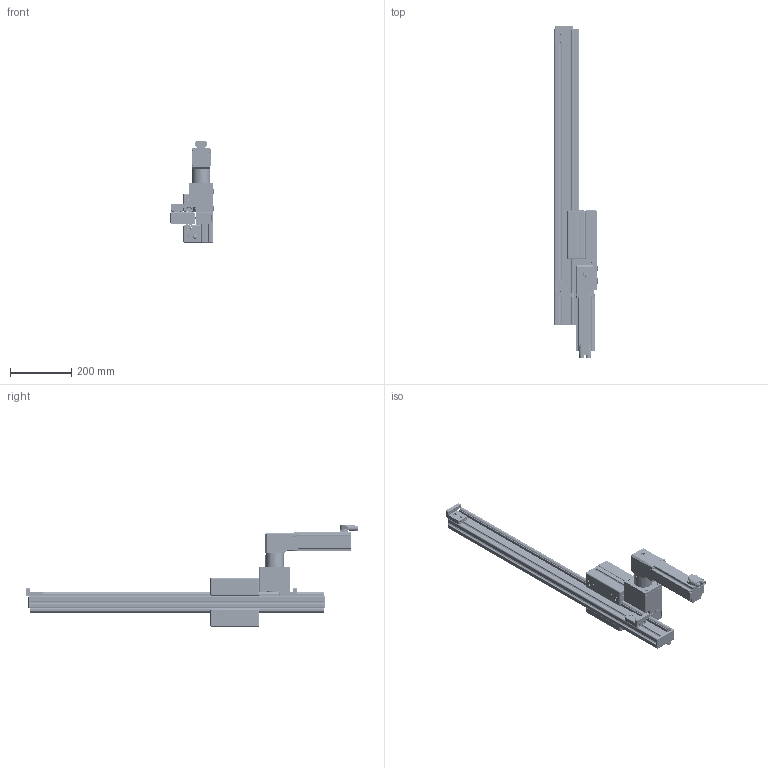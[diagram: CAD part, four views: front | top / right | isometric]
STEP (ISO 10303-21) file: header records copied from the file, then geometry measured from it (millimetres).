
FILE_DESCRIPTION(/* description */ ('Unknown'),/* implementation_level */ '2;1');
FILE_NAME(/* name */ '10008759-1',/* time_stamp */ '2019-07-02T10:22:00+02:00',/* author */ ('Unknown'),/* organization */ ('Unknown'),/* preprocessor_version */ 'ST-DEVELOPER v16.7',/* originating_system */ 'DEX',/* authorisation */ $);
FILE_SCHEMA (('AUTOMOTIVE_DESIGN {1 0 10303 214 3 1 1}'));
Products named in the file (44): 10008759-1; Lineareinheit LRE 8 D14 80x40 ZS _ 0066428 - 640 - 560 - 1 - V4; Profil 8 80x40 LRE _ 0002604 - 962 mm; Wellenklemmprofil 8 D14 _ 0029434 - 962 mm - V1; Welle D14 _ 0029401 - 962 mm; Zahnstange 8 Segment 80 _ 0062194 - V4; Schlitten_LRE_8_D14_160x160_-_0066428; ABDECKKAPPE 8 160X40 _ 0026539; Doppellagereinheit 8 D14 e _ 0029428 - V1; Doppellagereinheit 8 D14 z _ 0029426 - V1; Profil 8 160x40 _ 0026523-0066428; Abstreif-und_Schmiersystem_8_D14_-_0029446 - 140; Zahnstange 8 Endstueck _ 0062193 - Lineareinheit ZS - 640 - V4; Lineareinheit LRE 8 D14 80x40 ZS _ 0066428 - 640; Zahnstange 8 Antrieb _ 0062169 - 1; Lineareinheit LRE 8 D14 80x40 ZS Hub _ 0066775 - 640 - Lineareinheit 
LRE 8 D14 80x40 ZS; Abdeckkappe 8 80x40 _ 0002602; Schlittenanschlag_LRE_8_-_0068650_RECHTS - V1; Schlittenanschlag_8_Traeger_00068649_0068650 - V1; Schlittenanschlag_8_Anschlag_00068648_0068650 - V1; Zylinderschraube_DIN6912_M6x20_00066000_0068650; Nutenstein_8_St_2xM6-36_0064451_0068650; Schlittenanschlag_LRE_8_-_0068650_LINKS - V1; Antriebssatz Zahnstange 8 AP-WP 60 _ 0067333; Zylinderschraube_DIN_912_M6x55_-_8000061_ANTR; Abdeckkappe 8 D15, grau _ 0049255; Kupplungsgehaeuse_Zahnstange_8_-_0067358; Zylinderschraube_DIN_912_M6x16_-_0065509_ANTR; Adapterplatte_KLE_8_80x80_-_0067342; Kupplungshaelfte_D55_D14_-_0067536; Kupplungszahnkranz_D55_-_0061136; Zylinderschraube_DIN_912_M5x14_-_0065504_ANTR; Kupplungshaelfte_D55_d15_-_0062423; Zentrierhuelse_-_0062110; Halbrundschraube M8x10, verzinkt _ 8000017 - 1; Kegelkopfschraube_-_M5_x_22-+-00062128_-; Getriebe WP 60-3 _ 0066614; Motor SE 60-150-3-60-R-B _ 0066599_mit_Schrauben; Schraube_M3x10_mit_innen-torx; Motor SE 60-150-3-60-R-B _ 0066599_KL10008759_dk ...
Assembly tree (91 placements, depth 4):
  10008759-1
    Lineareinheit LRE 8 D14 80x40 ZS _ 0066428 - 640 - 560 - 1 - V4
      Profil 8 80x40 LRE _ 0002604 - 962 mm
      Wellenklemmprofil 8 D14 _ 0029434 - 962 mm - V1  x2
      Welle D14 _ 0029401 - 962 mm  x2
      Zahnstange 8 Segment 80 _ 0062194 - V4  x9
      Schlitten_LRE_8_D14_160x160_-_0066428
        Schlitten_LRE_8_D14_160x160_-_0066428
        ABDECKKAPPE 8 160X40 _ 0026539  x2
        Doppellagereinheit 8 D14 e _ 0029428 - V1
        Doppellagereinheit 8 D14 z _ 0029426 - V1
        Profil 8 160x40 _ 0026523-0066428
        Abstreif-und_Schmiersystem_8_D14_-_0029446 - 140  x2
      Zahnstange 8 Endstueck _ 0062193 - Lineareinheit ZS - 640 - V4
      Lineareinheit LRE 8 D14 80x40 ZS _ 0066428 - 640
      Zahnstange 8 Antrieb _ 0062169 - 1
      Lineareinheit LRE 8 D14 80x40 ZS Hub _ 0066775 - 640 - Lineareinheit 
LRE 8 D14 80x40 ZS
      Abdeckkappe 8 80x40 _ 0002602  x2
      Schlittenanschlag_LRE_8_-_0068650_RECHTS - V1
        Schlittenanschlag_8_Traeger_00068649_0068650 - V1
        Schlittenanschlag_8_Anschlag_00068648_0068650 - V1
        Zylinderschraube_DIN6912_M6x20_00066000_0068650  x4
        Nutenstein_8_St_2xM6-36_0064451_0068650
      Schlittenanschlag_LRE_8_-_0068650_LINKS - V1
        Schlittenanschlag_8_Traeger_00068649_0068650 - V1
        Schlittenanschlag_8_Anschlag_00068648_0068650 - V1
        Zylinderschraube_DIN6912_M6x20_00066000_0068650  x4
        Nutenstein_8_St_2xM6-36_0064451_0068650
    Antriebssatz Zahnstange 8 AP-WP 60 _ 0067333
      Zylinderschraube_DIN_912_M6x55_-_8000061_ANTR  x4
      Abdeckkappe 8 D15, grau _ 0049255  x2
      Kupplungsgehaeuse_Zahnstange_8_-_0067358
      Zylinderschraube_DIN_912_M6x16_-_0065509_ANTR  x4
      Adapterplatte_KLE_8_80x80_-_0067342
      Kupplungshaelfte_D55_D14_-_0067536
      Kupplungszahnkranz_D55_-_0061136
      Zylinderschraube_DIN_912_M5x14_-_0065504_ANTR  x4
      Kupplungshaelfte_D55_d15_-_0062423
      Zentrierhuelse_-_0062110  x2
      Antriebssatz Zahnstange 8 AP-WP 60 _ 0067333
    Halbrundschraube M8x10, verzinkt _ 8000017 - 1  x4
    Kegelkopfschraube_-_M5_x_22-+-00062128_-  x2
      Kegelkopfschraube_-_M5_x_22-+-00062128_-
    Getriebe WP 60-3 _ 0066614
    Motor SE 60-150-3-60-R-B _ 0066599_mit_Schrauben
      Schraube_M3x10_mit_innen-torx  x8
      Motor SE 60-150-3-60-R-B _ 0066599_KL10008759_dk
      Zylinderschraube DIN 912 M4x30, verzinkt _ 8000622 - V1  x4
Bounding box: 140.7 x 1085.6 x 332.35 mm (x, y, z)
Volume: 5985985.8 mm3; surface area: 1877134.3 mm2
Topology: 106 solids, 118 shells, 4896 faces, 12681 edges, 8268 vertices
Faces by surface type: plane 2341, cylinder 2043, cone 336, torus 134, sphere 38, bspline 4
Full cylindrical faces by diameter (mm): 1 x21, 2.459 x12, 2.5 x44, 3 x88, 3.242 x8, 3.5 x4, 4 x28, 4.134 x8, 4.2 x4, 4.5 x4, 4.917 x40, 5 x44, 5.4 x2, 5.5 x16, 5.6 x1, 6 x35, 6.2 x4, 6.4 x4, 6.5 x2, 6.6 x4, 6.8 x27, 6.9 x2, 7 x5, 8 x10, 8.3 x4, 8.4 x4, 8.5 x6, 9 x8, 10 x28, 10.5 x14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
Entity records: 84753 total; most frequent: CARTESIAN_POINT 14209, DIRECTION 14067, ORIENTED_EDGE 12482, EDGE_CURVE 6241, AXIS2_PLACEMENT_3D 5242, VERTEX_POINT 4325, LINE 3583, VECTOR 3583
